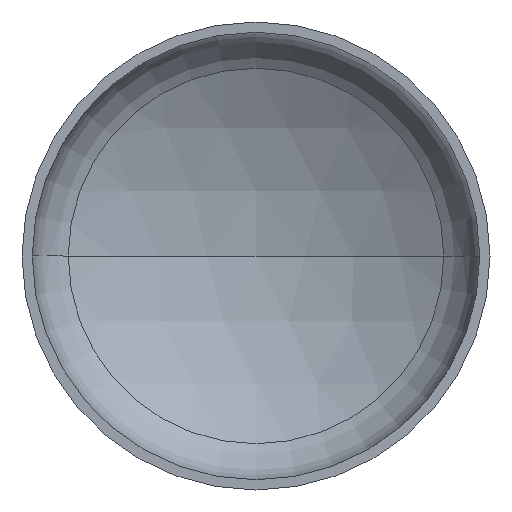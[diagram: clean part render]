
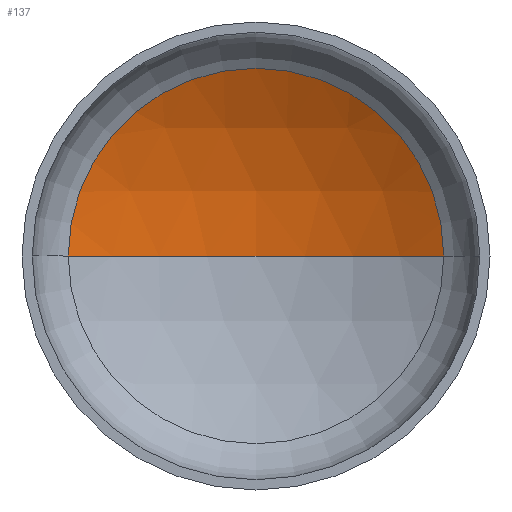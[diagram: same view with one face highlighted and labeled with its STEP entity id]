
A CAD part, front view. The second image highlights one B-rep face of the part: STEP entity #137.
In plain terms, the highlighted spherical face has radius 880 mm.
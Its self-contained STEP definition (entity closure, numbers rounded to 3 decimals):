
#7 = ORIENTED_EDGE ( 'NONE', *, *, #131, .T. ) ;
#8 = AXIS2_PLACEMENT_3D ( 'NONE', #251, #224, #319 ) ;
#40 = VERTEX_POINT ( 'NONE', #378 ) ;
#46 = ORIENTED_EDGE ( 'NONE', *, *, #337, .F. ) ;
#54 = AXIS2_PLACEMENT_3D ( 'NONE', #247, #118, #333 ) ;
#56 = AXIS2_PLACEMENT_3D ( 'NONE', #290, #148, #168 ) ;
#63 = AXIS2_PLACEMENT_3D ( 'NONE', #175, #386, #408 ) ;
#67 = EDGE_LOOP ( 'NONE', ( #46, #7, #187 ) ) ;
#90 = VERTEX_POINT ( 'NONE', #286 ) ;
#106 = VERTEX_POINT ( 'NONE', #308 ) ;
#118 = DIRECTION ( 'NONE',  ( 0., 0., -1. ) ) ;
#130 = EDGE_CURVE ( 'NONE', #106, #40, #342, .T. ) ;
#131 = EDGE_CURVE ( 'NONE', #90, #106, #405, .T. ) ;
#137 = ADVANCED_FACE ( 'NONE', ( #283 ), #218, .F. ) ;
#148 = DIRECTION ( 'NONE',  ( 0., 0., -1. ) ) ;
#168 = DIRECTION ( 'NONE',  ( -1., 0., 0. ) ) ;
#175 = CARTESIAN_POINT ( 'NONE',  ( 0., 222.086, 0. ) ) ;
#187 = ORIENTED_EDGE ( 'NONE', *, *, #130, .T. ) ;
#218 = SPHERICAL_SURFACE ( 'NONE', #54, 880. ) ;
#224 = DIRECTION ( 'NONE',  ( 0., 0., 1. ) ) ;
#247 = CARTESIAN_POINT ( 'NONE',  ( 0., -539.3, 0. ) ) ;
#251 = CARTESIAN_POINT ( 'NONE',  ( 0., -539.3, 0. ) ) ;
#283 = FACE_OUTER_BOUND ( 'NONE', #67, .T. ) ;
#286 = CARTESIAN_POINT ( 'NONE',  ( 0., 340.7, 0. ) ) ;
#290 = CARTESIAN_POINT ( 'NONE',  ( 0., -539.3, 0. ) ) ;
#308 = CARTESIAN_POINT ( 'NONE',  ( 441.239, 222.086, 0. ) ) ;
#314 = CIRCLE ( 'NONE', #8, 880. ) ;
#319 = DIRECTION ( 'NONE',  ( 1., 0., 0. ) ) ;
#333 = DIRECTION ( 'NONE',  ( -1., 0., 0. ) ) ;
#337 = EDGE_CURVE ( 'NONE', #90, #40, #314, .T. ) ;
#342 = CIRCLE ( 'NONE', #63, 441.239 ) ;
#378 = CARTESIAN_POINT ( 'NONE',  ( -441.239, 222.086, 0. ) ) ;
#386 = DIRECTION ( 'NONE',  ( 0., -1., 0. ) ) ;
#405 = CIRCLE ( 'NONE', #56, 880. ) ;
#408 = DIRECTION ( 'NONE',  ( 1., 0., 0. ) ) ;
